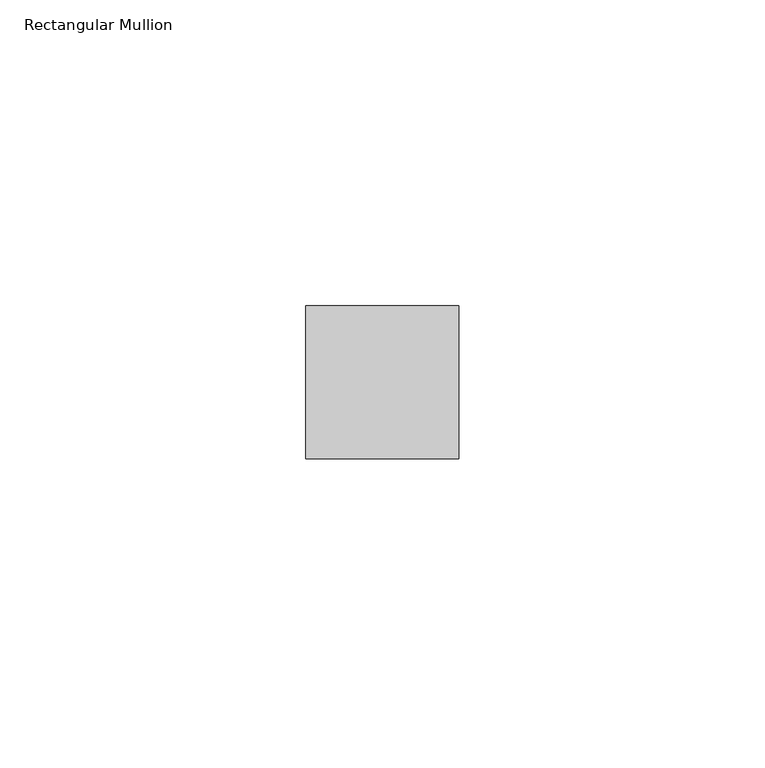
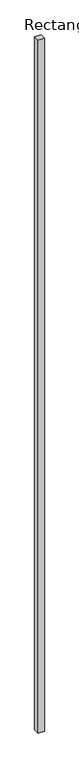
"""IFC4 building model written with IfcOpenShell, lengths in millimetres: member geometry, Rectangular Mullion : Batten_Aluminium_Modinex_AluBatten_25x25_AfricanEbony."""

from ifc_helpers import new_model, si_unit, frame, origin, place, context, project, spatial, polyline, outline, extrude, source, transform, mapped, element, save


def rectangular_mullion_ec047115(model_context):
    return source(origin(), model_context, "Body", "SweptSolid", [
        extrude(outline(polyline([(12.5, 25.0), (12.5, 0.0), (-12.5, 0.0), (-12.5, 25.0), (12.5, 25.0)])), frame((0.0, 0.0, -3000.0), z_axis=(0.0, 0.0, 1.0), x_axis=(1.0, 0.0, 0.0)), (0.0, 0.0, 1.0), 3000.0),
    ])


if __name__ == "__main__":
    model = new_model("IFC4")
    model_context = context("Model", 3, world=origin())
    ifc_project = project(units=[si_unit("LENGTHUNIT", "METRE", prefix="MILLI")], contexts=[model_context])
    site = spatial("IfcSite", under=ifc_project)
    building = spatial("IfcBuilding", under=site)
    placement = place(None, origin())
    rectangular_mullion_shape = rectangular_mullion_ec047115(model_context)
    element("IfcMember", 1, ObjectType="Rectangular Mullion : Batten_Aluminium_Modinex_AluBatten_25x25_AfricanEbony", at=placement, inside=building, context=model_context, shape_type="MappedRepresentation", body=[
        mapped(rectangular_mullion_shape, transform((0.0, 0.0, 0.0), x_axis=(1.0, 0.0, 0.0), y_axis=(0.0, 1.0, 0.0), z_axis=(0.0, 0.0, 1.0))),
    ])
    save(model, "model.ifc")
